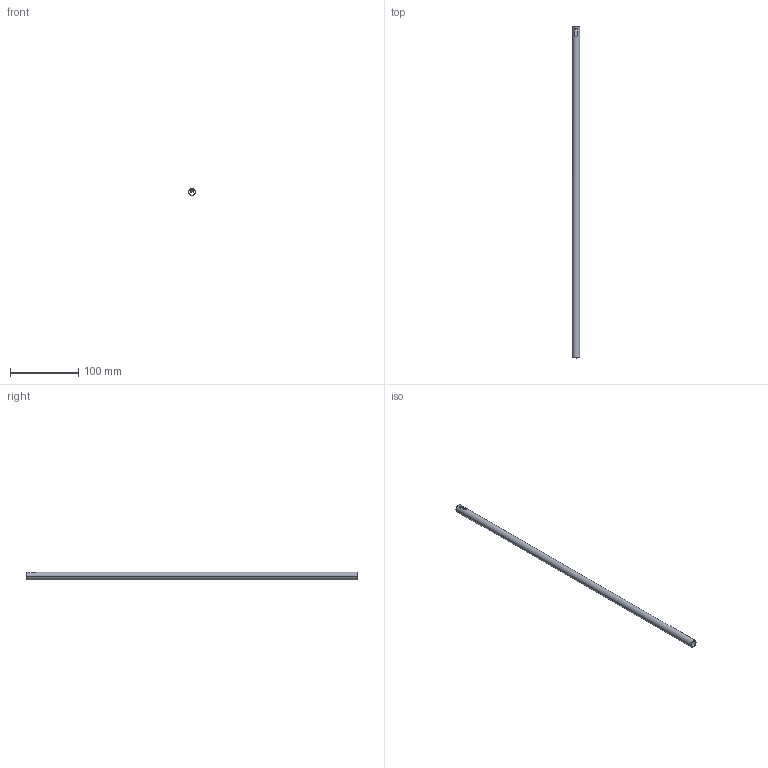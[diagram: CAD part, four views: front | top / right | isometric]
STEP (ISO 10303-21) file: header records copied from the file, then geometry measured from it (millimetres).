
FILE_DESCRIPTION (( 'STEP AP214' ), '1' );
FILE_NAME ('Relingsrohr_2S-Rundrel_P760604300_510.step', '2010-09-07T12:59:25', ( 'grass' ), ( '' ), 'SwSTEP 2.0', 'SolidWorks 2010', '' );
FILE_SCHEMA (( 'AUTOMOTIVE_DESIGN' ));
Length unit declared in the file: millimetre
Products named in the file (1): Relingsrohr_2S-Rundrel_P760604300_510
Bounding box: 11 x 486 x 11 mm (x, y, z)
Volume: 15265.9 mm3; surface area: 30639.6 mm2
Topology: 1 solids, 1 shells, 14 faces, 34 edges, 22 vertices
Faces by surface type: plane 10, cylinder 4
Entity records: 476 total; most frequent: CARTESIAN_POINT 77, DIRECTION 72, ORIENTED_EDGE 68, EDGE_CURVE 34, AXIS2_PLACEMENT_3D 25, LINE 22, VECTOR 22, VERTEX_POINT 22
